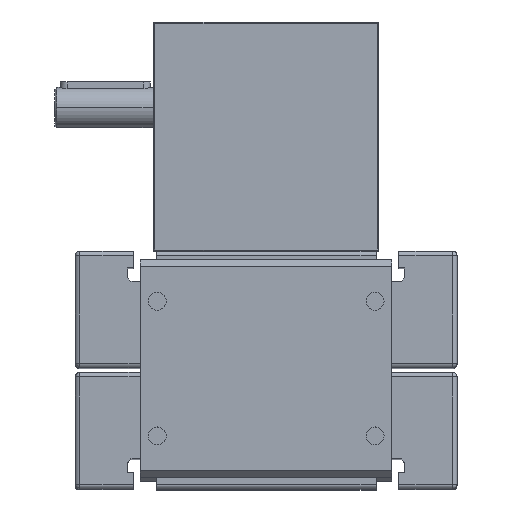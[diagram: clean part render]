
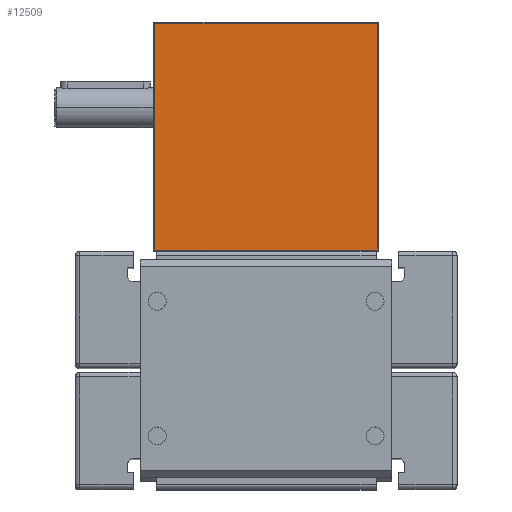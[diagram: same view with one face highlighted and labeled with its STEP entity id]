
A CAD part, top view. The second image highlights one B-rep face of the part: STEP entity #12509.
In plain terms, the highlighted planar face has unit normal (0, 0, 1) as drawn and (0, 0, -1) by its records, which use the part's own axes.
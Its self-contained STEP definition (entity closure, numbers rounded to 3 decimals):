
#37 = ORIENTED_EDGE ( 'NONE', *, *, #9847, .T. ) ;
#311 = DIRECTION ( 'NONE',  ( 0., -1., 0. ) ) ;
#412 = ORIENTED_EDGE ( 'NONE', *, *, #13968, .T. ) ;
#779 = FACE_OUTER_BOUND ( 'NONE', #2141, .T. ) ;
#1209 = DIRECTION ( 'NONE',  ( -1., 0., 0. ) ) ;
#1700 = CARTESIAN_POINT ( 'NONE',  ( -49.5, 0., -90. ) ) ;
#2132 = EDGE_CURVE ( 'NONE', #12825, #13602, #5394, .T. ) ;
#2141 = EDGE_LOOP ( 'NONE', ( #5212, #412, #15774, #37 ) ) ;
#2413 = LINE ( 'NONE', #6113, #11277 ) ;
#4223 = CARTESIAN_POINT ( 'NONE',  ( 50., 0., -90. ) ) ;
#4329 = CARTESIAN_POINT ( 'NONE',  ( 50., 101.5, -90. ) ) ;
#5084 = CARTESIAN_POINT ( 'NONE',  ( 49.5, 101.5, -90. ) ) ;
#5212 = ORIENTED_EDGE ( 'NONE', *, *, #15497, .T. ) ;
#5394 = LINE ( 'NONE', #1700, #15845 ) ;
#5552 = DIRECTION ( 'NONE',  ( 0., 1., 0. ) ) ;
#6113 = CARTESIAN_POINT ( 'NONE',  ( -50., 0.5, -90. ) ) ;
#6756 = CARTESIAN_POINT ( 'NONE',  ( -49.5, 101.5, -90. ) ) ;
#7115 = VECTOR ( 'NONE', #311, 1000. ) ;
#9134 = VECTOR ( 'NONE', #14039, 1000. ) ;
#9363 = DIRECTION ( 'NONE',  ( 1., 0., 0. ) ) ;
#9847 = EDGE_CURVE ( 'NONE', #13602, #13501, #12929, .T. ) ;
#10533 = AXIS2_PLACEMENT_3D ( 'NONE', #4223, #14020, #9363 ) ;
#10557 = PLANE ( 'NONE',  #10533 ) ;
#11063 = CARTESIAN_POINT ( 'NONE',  ( 49.5, 0.5, -90. ) ) ;
#11277 = VECTOR ( 'NONE', #1209, 1000. ) ;
#11656 = CARTESIAN_POINT ( 'NONE',  ( -49.5, 0.5, -90. ) ) ;
#12298 = VERTEX_POINT ( 'NONE', #11063 ) ;
#12509 = ADVANCED_FACE ( 'NONE', ( #779 ), #10557, .F. ) ;
#12825 = VERTEX_POINT ( 'NONE', #11656 ) ;
#12929 = LINE ( 'NONE', #4329, #9134 ) ;
#13501 = VERTEX_POINT ( 'NONE', #5084 ) ;
#13557 = LINE ( 'NONE', #15870, #7115 ) ;
#13602 = VERTEX_POINT ( 'NONE', #6756 ) ;
#13968 = EDGE_CURVE ( 'NONE', #12298, #12825, #2413, .T. ) ;
#14020 = DIRECTION ( 'NONE',  ( 0., 0., 1. ) ) ;
#14039 = DIRECTION ( 'NONE',  ( 1., 0., 0. ) ) ;
#15497 = EDGE_CURVE ( 'NONE', #13501, #12298, #13557, .T. ) ;
#15774 = ORIENTED_EDGE ( 'NONE', *, *, #2132, .T. ) ;
#15845 = VECTOR ( 'NONE', #5552, 1000. ) ;
#15870 = CARTESIAN_POINT ( 'NONE',  ( 49.5, 0., -90. ) ) ;
